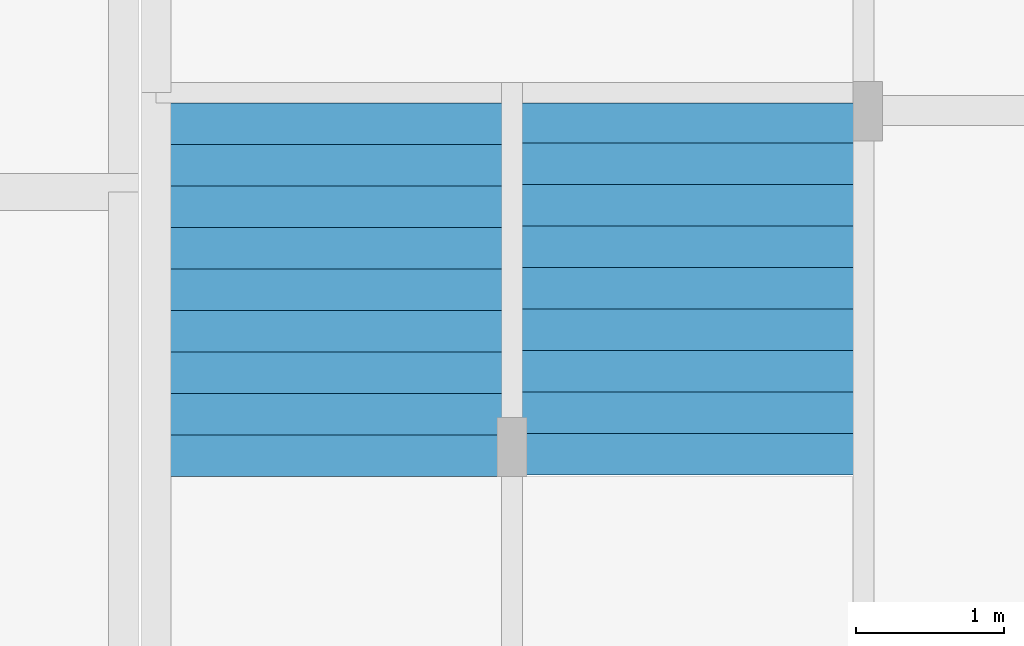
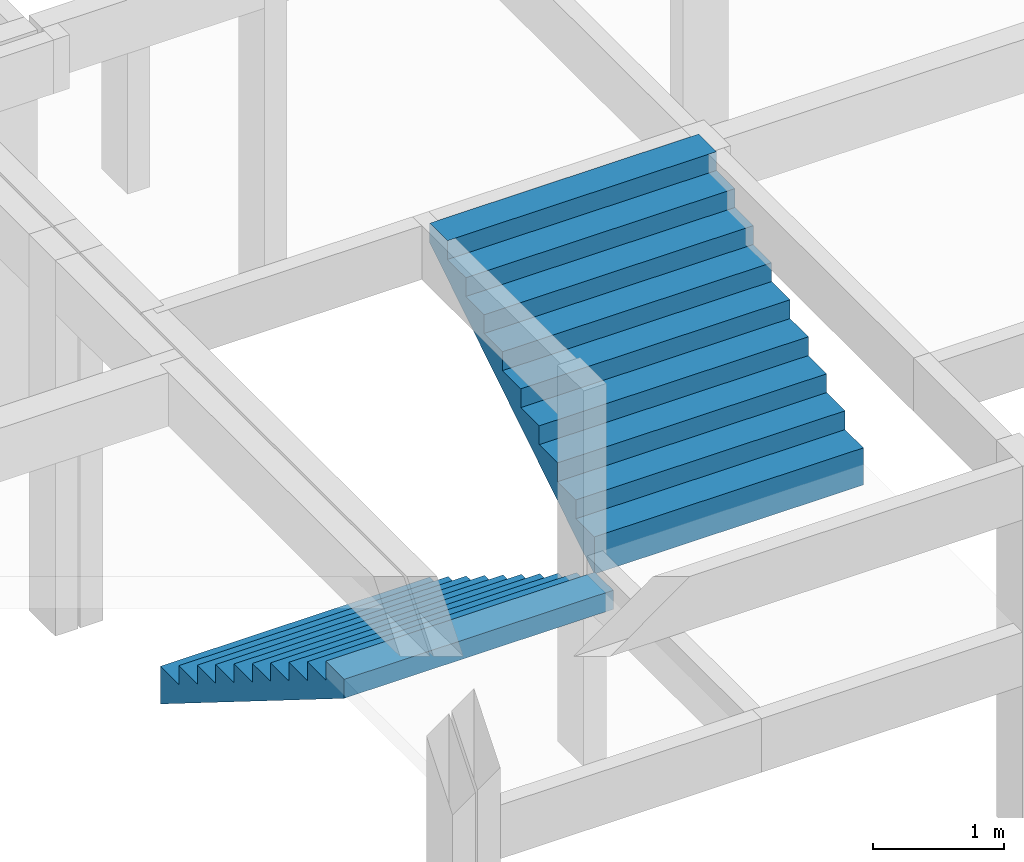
# One storey, part 4 of 4: 2 stair flights.
"""IFC4 building model written with IfcOpenShell, lengths in centimetres."""

from ifc_helpers import new_model, si_unit, derived_unit, frame, origin, origin_with_axes, place, context, project, spatial, faceted_brep, material, element, save


model = new_model("IFC4")

# Units and contexts
model_context = context("Model", 3, precision=1e-05, world=origin_with_axes(), identifier="Body")
ifc_project = project(units=[si_unit("LENGTHUNIT", "METRE", prefix="CENTI"), si_unit("VOLUMEUNIT", "CUBIC_METRE"), si_unit("AREAUNIT", "SQUARE_METRE"), si_unit("POWERUNIT", "WATT"), si_unit("LUMINOUSFLUXUNIT", "LUMEN"), si_unit("ELECTRICCURRENTUNIT", "AMPERE"), si_unit("PRESSUREUNIT", "PASCAL", prefix="KILO"), si_unit("MASSUNIT", "GRAM", prefix="KILO"), si_unit("PLANEANGLEUNIT", "RADIAN"), derived_unit("VOLUMETRICFLOWRATEUNIT", [(si_unit("LENGTHUNIT", "METRE"), 3), (si_unit("TIMEUNIT", "SECOND"), -1)])], contexts=[model_context])

# Site, building, storey
site_placement = place(None, origin_with_axes())
site = spatial("IfcSite", under=ifc_project, at=site_placement)
building_placement = place(site_placement, origin())
building = spatial("IfcBuilding", under=site, at=building_placement)
placement_1 = place(building_placement, origin_with_axes())
placement_2 = place(placement_1, frame((0.0, 0.0, 550.0), z_axis=(0.0, 0.0, 1.0), x_axis=(1.0, 0.0, 0.0)))
placement_3 = place(placement_2, frame((0.0, 0.0, 350.0), z_axis=(0.0, 0.0, 1.0), x_axis=(1.0, 0.0, 0.0)))
storey_placement = place(placement_3, frame((0.0, 0.0, 350.0), z_axis=(0.0, 0.0, 1.0), x_axis=(1.0, 0.0, 0.0)))
storey = spatial("IfcBuildingStorey", under=building, at=storey_placement, Name="2º PAV.", CompositionType="ELEMENT", Elevation=1250.0)

# Stair flights
ifc_material = material(Name="Concreto")
stair_flight_1_placement = place(storey_placement, frame((2785.1, -978.1, -172.0), z_axis=(0.0, 0.0, 1.0), x_axis=(1.0, 0.0, 0.0)))
element("IfcStairFlight", 1, at=stair_flight_1_placement, inside=storey, material=ifc_material, Name="LE1", NumberOfRisers=0, NumberOfTreads=0, context=model_context, shape_type="Brep", body=[
    faceted_brep([(118.5, -140.0, 0.0), (118.5, -112.0, 0.0), (-118.5, -112.0, 0.0), (-118.5, -140.0, 0.0), (118.5, -112.0, -35.188714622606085), (118.5, -140.0, -17.688714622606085), (-118.5, -140.0, -17.688714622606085), (-118.5, -112.0, -35.188714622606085), (118.5, -140.0, -17.688714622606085), (118.5, -140.0, 0.0), (-118.5, -140.0, 0.0), (-118.5, -140.0, -17.688714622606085), (118.5, -112.0, 0.0), (118.5, -112.0, -35.188714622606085), (-118.5, -112.0, -35.188714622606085), (-118.5, -112.0, 0.0), (-118.5, -112.0, -35.188714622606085), (-118.5, -140.0, -17.688714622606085), (-118.5, -140.0, 0.0), (-118.5, -112.0, 0.0), (118.5, -112.0, -35.188714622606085), (118.5, -112.0, 0.0), (118.5, -140.0, 0.0), (118.5, -140.0, -17.688714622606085), (118.5, -112.0, -17.5), (118.5, -84.0, -17.5), (-118.5, -84.0, -17.5), (-118.5, -112.0, -17.5), (118.5, -84.0, -52.688714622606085), (118.5, -112.0, -35.188714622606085), (-118.5, -112.0, -35.188714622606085), (-118.5, -84.0, -52.688714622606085), (118.5, -112.0, -35.188714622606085), (118.5, -112.0, -17.5), (-118.5, -112.0, -17.5), (-118.5, -112.0, -35.188714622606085), (118.5, -84.0, -17.5), (118.5, -84.0, -52.688714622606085), (-118.5, -84.0, -52.688714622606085), (-118.5, -84.0, -17.5), (-118.5, -84.0, -52.688714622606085), (-118.5, -112.0, -35.188714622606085), (-118.5, -112.0, -17.5), (-118.5, -84.0, -17.5), (118.5, -84.0, -52.688714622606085), (118.5, -84.0, -17.5), (118.5, -112.0, -17.5), (118.5, -112.0, -35.188714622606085), (118.5, -84.0, -35.0), (118.5, -56.0, -35.0), (-118.5, -56.0, -35.0), (-118.5, -84.0, -35.0), (118.5, -56.0, -70.18871462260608), (118.5, -84.0, -52.688714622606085), (-118.5, -84.0, -52.688714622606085), (-118.5, -56.0, -70.18871462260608), (118.5, -84.0, -52.688714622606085), (118.5, -84.0, -35.0), (-118.5, -84.0, -35.0), (-118.5, -84.0, -52.688714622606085), (118.5, -56.0, -35.0), (118.5, -56.0, -70.18871462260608), (-118.5, -56.0, -70.18871462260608), (-118.5, -56.0, -35.0), (-118.5, -56.0, -70.18871462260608), (-118.5, -84.0, -52.688714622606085), (-118.5, -84.0, -35.0), (-118.5, -56.0, -35.0), (118.5, -56.0, -70.18871462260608), (118.5, -56.0, -35.0), (118.5, -84.0, -35.0), (118.5, -84.0, -52.688714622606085), (118.5, -56.0, -52.5), (118.5, -28.0, -52.5), (-118.5, -28.0, -52.5), (-118.5, -56.0, -52.5), (118.5, -28.0, -87.68871462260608), (118.5, -56.0, -70.18871462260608), (-118.5, -56.0, -70.18871462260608), (-118.5, -28.0, -87.68871462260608), (118.5, -56.0, -70.18871462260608), (118.5, -56.0, -52.5), (-118.5, -56.0, -52.5), (-118.5, -56.0, -70.18871462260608), (118.5, -28.0, -52.5), (118.5, -28.0, -87.68871462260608), (-118.5, -28.0, -87.68871462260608), (-118.5, -28.0, -52.5), (-118.5, -28.0, -87.68871462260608), (-118.5, -56.0, -70.18871462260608), (-118.5, -56.0, -52.5), (-118.5, -28.0, -52.5), (118.5, -28.0, -87.68871462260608), (118.5, -28.0, -52.5), (118.5, -56.0, -52.5), (118.5, -56.0, -70.18871462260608), (118.5, -28.0, -70.0), (118.5, 0.0, -70.0), (-118.5, 0.0, -70.0), (-118.5, -28.0, -70.0), (118.5, 0.0, -105.18871462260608), (118.5, -28.0, -87.68871462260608), (-118.5, -28.0, -87.68871462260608), (-118.5, 0.0, -105.18871462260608), (118.5, -28.0, -87.68871462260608), (118.5, -28.0, -70.0), (-118.5, -28.0, -70.0), (-118.5, -28.0, -87.68871462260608), (118.5, 0.0, -70.0), (118.5, 0.0, -105.18871462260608), (-118.5, 0.0, -105.18871462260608), (-118.5, 0.0, -70.0), (-118.5, 0.0, -105.18871462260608), (-118.5, -28.0, -87.68871462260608), (-118.5, -28.0, -70.0), (-118.5, 0.0, -70.0), (118.5, 0.0, -105.18871462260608), (118.5, 0.0, -70.0), (118.5, -28.0, -70.0), (118.5, -28.0, -87.68871462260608), (118.5, 0.0, -87.5), (118.5, 28.0, -87.5), (-118.5, 28.0, -87.5), (-118.5, 0.0, -87.5), (118.5, 28.0, -122.68871462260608), (118.5, 0.0, -105.18871462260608), (-118.5, 0.0, -105.18871462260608), (-118.5, 28.0, -122.68871462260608), (118.5, 0.0, -105.18871462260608), (118.5, 0.0, -87.5), (-118.5, 0.0, -87.5), (-118.5, 0.0, -105.18871462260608), (118.5, 28.0, -87.5), (118.5, 28.0, -122.68871462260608), (-118.5, 28.0, -122.68871462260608), (-118.5, 28.0, -87.5), (-118.5, 28.0, -122.68871462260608), (-118.5, 0.0, -105.18871462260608), (-118.5, 0.0, -87.5), (-118.5, 28.0, -87.5), (118.5, 28.0, -122.68871462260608), (118.5, 28.0, -87.5), (118.5, 0.0, -87.5), (118.5, 0.0, -105.18871462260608), (118.5, 28.0, -105.0), (118.5, 56.0, -105.0), (-118.5, 56.0, -105.0), (-118.5, 28.0, -105.0), (118.5, 56.0, -140.18871462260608), (118.5, 28.0, -122.68871462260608), (-118.5, 28.0, -122.68871462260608), (-118.5, 56.0, -140.18871462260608), (118.5, 28.0, -122.68871462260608), (118.5, 28.0, -105.0), (-118.5, 28.0, -105.0), (-118.5, 28.0, -122.68871462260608), (118.5, 56.0, -105.0), (118.5, 56.0, -140.18871462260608), (-118.5, 56.0, -140.18871462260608), (-118.5, 56.0, -105.0), (-118.5, 56.0, -140.18871462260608), (-118.5, 28.0, -122.68871462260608), (-118.5, 28.0, -105.0), (-118.5, 56.0, -105.0), (118.5, 56.0, -140.18871462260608), (118.5, 56.0, -105.0), (118.5, 28.0, -105.0), (118.5, 28.0, -122.68871462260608), (118.5, 56.0, -122.5), (118.5, 84.0, -122.5), (-118.5, 84.0, -122.5), (-118.5, 56.0, -122.5), (118.5, 84.0, -157.68871462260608), (118.5, 56.0, -140.18871462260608), (-118.5, 56.0, -140.18871462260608), (-118.5, 84.0, -157.68871462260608), (118.5, 56.0, -140.18871462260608), (118.5, 56.0, -122.5), (-118.5, 56.0, -122.5), (-118.5, 56.0, -140.18871462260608), (118.5, 84.0, -122.5), (118.5, 84.0, -157.68871462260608), (-118.5, 84.0, -157.68871462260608), (-118.5, 84.0, -122.5), (-118.5, 84.0, -157.68871462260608), (-118.5, 56.0, -140.18871462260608), (-118.5, 56.0, -122.5), (-118.5, 84.0, -122.5), (118.5, 84.0, -157.68871462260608), (118.5, 84.0, -122.5), (118.5, 56.0, -122.5), (118.5, 56.0, -140.18871462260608), (118.5, 84.0, -140.0), (118.5, 112.0, -140.0), (-118.5, 112.0, -140.0), (-118.5, 84.0, -140.0), (118.5, 112.0, -175.18871462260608), (118.5, 84.0, -157.68871462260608), (-118.5, 84.0, -157.68871462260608), (-118.5, 112.0, -175.18871462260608), (118.5, 84.0, -157.68871462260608), (118.5, 84.0, -140.0), (-118.5, 84.0, -140.0), (-118.5, 84.0, -157.68871462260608), (118.5, 112.0, -140.0), (118.5, 112.0, -175.18871462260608), (-118.5, 112.0, -175.18871462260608), (-118.5, 112.0, -140.0), (-118.5, 112.0, -175.18871462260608), (-118.5, 84.0, -157.68871462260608), (-118.5, 84.0, -140.0), (-118.5, 112.0, -140.0), (118.5, 112.0, -175.18871462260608), (118.5, 112.0, -140.0), (118.5, 84.0, -140.0), (118.5, 84.0, -157.68871462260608), (118.5, 112.0, -157.5), (118.5, 140.0, -157.5), (-118.5, 140.0, -157.5), (-118.5, 112.0, -157.5), (118.5, 140.0, -192.68871462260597), (118.5, 112.0, -175.18871462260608), (-118.5, 112.0, -175.18871462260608), (-118.5, 140.0, -192.68871462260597), (118.5, 112.0, -175.18871462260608), (118.5, 112.0, -157.5), (-118.5, 112.0, -157.5), (-118.5, 112.0, -175.18871462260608), (118.5, 140.0, -157.5), (118.5, 140.0, -192.68871462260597), (-118.5, 140.0, -192.68871462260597), (-118.5, 140.0, -157.5), (-118.5, 140.0, -192.68871462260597), (-118.5, 112.0, -175.18871462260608), (-118.5, 112.0, -157.5), (-118.5, 140.0, -157.5), (118.5, 140.0, -192.68871462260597), (118.5, 140.0, -157.5), (118.5, 112.0, -157.5), (118.5, 112.0, -175.18871462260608)], [[[0, 1, 2, 3]], [[4, 5, 6, 7]], [[8, 9, 10, 11]], [[12, 13, 14, 15]], [[16, 17, 18, 19]], [[20, 21, 22, 23]], [[24, 25, 26, 27]], [[28, 29, 30, 31]], [[32, 33, 34, 35]], [[36, 37, 38, 39]], [[40, 41, 42, 43]], [[44, 45, 46, 47]], [[48, 49, 50, 51]], [[52, 53, 54, 55]], [[56, 57, 58, 59]], [[60, 61, 62, 63]], [[64, 65, 66, 67]], [[68, 69, 70, 71]], [[72, 73, 74, 75]], [[76, 77, 78, 79]], [[80, 81, 82, 83]], [[84, 85, 86, 87]], [[88, 89, 90, 91]], [[92, 93, 94, 95]], [[96, 97, 98, 99]], [[100, 101, 102, 103]], [[104, 105, 106, 107]], [[108, 109, 110, 111]], [[112, 113, 114, 115]], [[116, 117, 118, 119]], [[120, 121, 122, 123]], [[124, 125, 126, 127]], [[128, 129, 130, 131]], [[132, 133, 134, 135]], [[136, 137, 138, 139]], [[140, 141, 142, 143]], [[144, 145, 146, 147]], [[148, 149, 150, 151]], [[152, 153, 154, 155]], [[156, 157, 158, 159]], [[160, 161, 162, 163]], [[164, 165, 166, 167]], [[168, 169, 170, 171]], [[172, 173, 174, 175]], [[176, 177, 178, 179]], [[180, 181, 182, 183]], [[184, 185, 186, 187]], [[188, 189, 190, 191]], [[192, 193, 194, 195]], [[196, 197, 198, 199]], [[200, 201, 202, 203]], [[204, 205, 206, 207]], [[208, 209, 210, 211]], [[212, 213, 214, 215]], [[216, 217, 218, 219]], [[220, 221, 222, 223]], [[224, 225, 226, 227]], [[228, 229, 230, 231]], [[232, 233, 234, 235]], [[236, 237, 238, 239]]]),
])
stair_flight_2_placement = place(storey_placement, frame((3022.1, -963.6, 0.0), z_axis=(0.0, 0.0, 1.0), x_axis=(1.0, 0.0, 0.0)))
element("IfcStairFlight", 2, at=stair_flight_2_placement, inside=storey, material=ifc_material, Name="LE4", NumberOfRisers=0, NumberOfTreads=0, context=model_context, shape_type="Brep", body=[
    faceted_brep([(-118.5, 125.5, 0.0), (-118.5, 98.5, 0.0), (118.5, 98.5, 0.0), (118.5, 125.5, 0.0), (-118.5, 98.5, -35.188714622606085), (-118.5, 125.5, -18.313714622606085), (118.5, 125.5, -18.313714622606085), (118.5, 98.5, -35.188714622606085), (-118.5, 125.5, -18.313714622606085), (-118.5, 125.5, 0.0), (118.5, 125.5, 0.0), (118.5, 125.5, -18.313714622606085), (-118.5, 98.5, 0.0), (-118.5, 98.5, -35.188714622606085), (118.5, 98.5, -35.188714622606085), (118.5, 98.5, 0.0), (118.5, 98.5, -35.188714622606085), (118.5, 125.5, -18.313714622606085), (118.5, 125.5, 0.0), (118.5, 98.5, 0.0), (-118.5, 98.5, -35.188714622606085), (-118.5, 98.5, 0.0), (-118.5, 125.5, 0.0), (-118.5, 125.5, -18.313714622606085), (-118.5, 98.5, -17.5), (-118.5, 70.5, -17.5), (118.5, 70.5, -17.5), (118.5, 98.5, -17.5), (-118.5, 70.5, -52.688714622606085), (-118.5, 98.5, -35.188714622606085), (118.5, 98.5, -35.188714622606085), (118.5, 70.5, -52.688714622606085), (-118.5, 98.5, -35.188714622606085), (-118.5, 98.5, -17.5), (118.5, 98.5, -17.5), (118.5, 98.5, -35.188714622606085), (-118.5, 70.5, -17.5), (-118.5, 70.5, -52.688714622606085), (118.5, 70.5, -52.688714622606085), (118.5, 70.5, -17.5), (118.5, 70.5, -52.688714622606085), (118.5, 98.5, -35.188714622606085), (118.5, 98.5, -17.5), (118.5, 70.5, -17.5), (-118.5, 70.5, -52.688714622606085), (-118.5, 70.5, -17.5), (-118.5, 98.5, -17.5), (-118.5, 98.5, -35.188714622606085), (-118.5, 70.5, -35.0), (-118.5, 42.5, -35.0), (118.5, 42.5, -35.0), (118.5, 70.5, -35.0), (-118.5, 42.5, -70.18871462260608), (-118.5, 70.5, -52.688714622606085), (118.5, 70.5, -52.688714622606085), (118.5, 42.5, -70.18871462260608), (-118.5, 70.5, -52.688714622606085), (-118.5, 70.5, -35.0), (118.5, 70.5, -35.0), (118.5, 70.5, -52.688714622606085), (-118.5, 42.5, -35.0), (-118.5, 42.5, -70.18871462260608), (118.5, 42.5, -70.18871462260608), (118.5, 42.5, -35.0), (118.5, 42.5, -70.18871462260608), (118.5, 70.5, -52.688714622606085), (118.5, 70.5, -35.0), (118.5, 42.5, -35.0), (-118.5, 42.5, -70.18871462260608), (-118.5, 42.5, -35.0), (-118.5, 70.5, -35.0), (-118.5, 70.5, -52.688714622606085), (-118.5, 42.5, -52.5), (-118.5, 14.5, -52.5), (118.5, 14.5, -52.5), (118.5, 42.5, -52.5), (-118.5, 14.5, -87.68871462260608), (-118.5, 42.5, -70.18871462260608), (118.5, 42.5, -70.18871462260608), (118.5, 14.5, -87.68871462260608), (-118.5, 42.5, -70.18871462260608), (-118.5, 42.5, -52.5), (118.5, 42.5, -52.5), (118.5, 42.5, -70.18871462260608), (-118.5, 14.5, -52.5), (-118.5, 14.5, -87.68871462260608), (118.5, 14.5, -87.68871462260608), (118.5, 14.5, -52.5), (118.5, 14.5, -87.68871462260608), (118.5, 42.5, -70.18871462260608), (118.5, 42.5, -52.5), (118.5, 14.5, -52.5), (-118.5, 14.5, -87.68871462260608), (-118.5, 14.5, -52.5), (-118.5, 42.5, -52.5), (-118.5, 42.5, -70.18871462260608), (-118.5, 14.5, -70.0), (-118.5, -13.5, -70.0), (118.5, -13.5, -70.0), (118.5, 14.5, -70.0), (-118.5, -13.5, -105.18871462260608), (-118.5, 14.5, -87.68871462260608), (118.5, 14.5, -87.68871462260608), (118.5, -13.5, -105.18871462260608), (-118.5, 14.5, -87.68871462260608), (-118.5, 14.5, -70.0), (118.5, 14.5, -70.0), (118.5, 14.5, -87.68871462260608), (-118.5, -13.5, -70.0), (-118.5, -13.5, -105.18871462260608), (118.5, -13.5, -105.18871462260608), (118.5, -13.5, -70.0), (118.5, -13.5, -105.18871462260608), (118.5, 14.5, -87.68871462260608), (118.5, 14.5, -70.0), (118.5, -13.5, -70.0), (-118.5, -13.5, -105.18871462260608), (-118.5, -13.5, -70.0), (-118.5, 14.5, -70.0), (-118.5, 14.5, -87.68871462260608), (-118.5, -13.5, -87.5), (-118.5, -41.5, -87.5), (118.5, -41.5, -87.5), (118.5, -13.5, -87.5), (-118.5, -41.5, -122.68871462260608), (-118.5, -13.5, -105.18871462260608), (118.5, -13.5, -105.18871462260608), (118.5, -41.5, -122.68871462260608), (-118.5, -13.5, -105.18871462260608), (-118.5, -13.5, -87.5), (118.5, -13.5, -87.5), (118.5, -13.5, -105.18871462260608), (-118.5, -41.5, -87.5), (-118.5, -41.5, -122.68871462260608), (118.5, -41.5, -122.68871462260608), (118.5, -41.5, -87.5), (118.5, -41.5, -122.68871462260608), (118.5, -13.5, -105.18871462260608), (118.5, -13.5, -87.5), (118.5, -41.5, -87.5), (-118.5, -41.5, -122.68871462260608), (-118.5, -41.5, -87.5), (-118.5, -13.5, -87.5), (-118.5, -13.5, -105.18871462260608), (-118.5, -41.5, -105.0), (-118.5, -69.5, -105.0), (118.5, -69.5, -105.0), (118.5, -41.5, -105.0), (-118.5, -69.5, -140.18871462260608), (-118.5, -41.5, -122.68871462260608), (118.5, -41.5, -122.68871462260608), (118.5, -69.5, -140.18871462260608), (-118.5, -41.5, -122.68871462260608), (-118.5, -41.5, -105.0), (118.5, -41.5, -105.0), (118.5, -41.5, -122.68871462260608), (-118.5, -69.5, -105.0), (-118.5, -69.5, -140.18871462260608), (118.5, -69.5, -140.18871462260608), (118.5, -69.5, -105.0), (118.5, -69.5, -140.18871462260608), (118.5, -41.5, -122.68871462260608), (118.5, -41.5, -105.0), (118.5, -69.5, -105.0), (-118.5, -69.5, -140.18871462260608), (-118.5, -69.5, -105.0), (-118.5, -41.5, -105.0), (-118.5, -41.5, -122.68871462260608), (-118.5, -69.5, -122.5), (-118.5, -97.5, -122.5), (118.5, -97.5, -122.5), (118.5, -69.5, -122.5), (-118.5, -97.5, -157.68871462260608), (-118.5, -69.5, -140.18871462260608), (118.5, -69.5, -140.18871462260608), (118.5, -97.5, -157.68871462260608), (-118.5, -69.5, -140.18871462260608), (-118.5, -69.5, -122.5), (118.5, -69.5, -122.5), (118.5, -69.5, -140.18871462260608), (-118.5, -97.5, -122.5), (-118.5, -97.5, -157.68871462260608), (118.5, -97.5, -157.68871462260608), (118.5, -97.5, -122.5), (118.5, -97.5, -157.68871462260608), (118.5, -69.5, -140.18871462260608), (118.5, -69.5, -122.5), (118.5, -97.5, -122.5), (-118.5, -97.5, -157.68871462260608), (-118.5, -97.5, -122.5), (-118.5, -69.5, -122.5), (-118.5, -69.5, -140.18871462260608), (-118.5, -97.5, -140.0), (-118.5, -125.5, -140.0), (118.5, -125.5, -140.0), (118.5, -97.5, -140.0), (-118.5, -125.5, -174.56371462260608), (-118.5, -97.5, -157.68871462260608), (118.5, -97.5, -157.68871462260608), (118.5, -125.5, -174.56371462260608), (-118.5, -97.5, -157.68871462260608), (-118.5, -97.5, -140.0), (118.5, -97.5, -140.0), (118.5, -97.5, -157.68871462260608), (-118.5, -125.5, -140.0), (-118.5, -125.5, -174.56371462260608), (118.5, -125.5, -174.56371462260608), (118.5, -125.5, -140.0), (118.5, -125.5, -174.56371462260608), (118.5, -97.5, -157.68871462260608), (118.5, -97.5, -140.0), (118.5, -125.5, -140.0), (-118.5, -125.5, -174.56371462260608), (-118.5, -125.5, -140.0), (-118.5, -97.5, -140.0), (-118.5, -97.5, -157.68871462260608)], [[[0, 1, 2, 3]], [[4, 5, 6, 7]], [[8, 9, 10, 11]], [[12, 13, 14, 15]], [[16, 17, 18, 19]], [[20, 21, 22, 23]], [[24, 25, 26, 27]], [[28, 29, 30, 31]], [[32, 33, 34, 35]], [[36, 37, 38, 39]], [[40, 41, 42, 43]], [[44, 45, 46, 47]], [[48, 49, 50, 51]], [[52, 53, 54, 55]], [[56, 57, 58, 59]], [[60, 61, 62, 63]], [[64, 65, 66, 67]], [[68, 69, 70, 71]], [[72, 73, 74, 75]], [[76, 77, 78, 79]], [[80, 81, 82, 83]], [[84, 85, 86, 87]], [[88, 89, 90, 91]], [[92, 93, 94, 95]], [[96, 97, 98, 99]], [[100, 101, 102, 103]], [[104, 105, 106, 107]], [[108, 109, 110, 111]], [[112, 113, 114, 115]], [[116, 117, 118, 119]], [[120, 121, 122, 123]], [[124, 125, 126, 127]], [[128, 129, 130, 131]], [[132, 133, 134, 135]], [[136, 137, 138, 139]], [[140, 141, 142, 143]], [[144, 145, 146, 147]], [[148, 149, 150, 151]], [[152, 153, 154, 155]], [[156, 157, 158, 159]], [[160, 161, 162, 163]], [[164, 165, 166, 167]], [[168, 169, 170, 171]], [[172, 173, 174, 175]], [[176, 177, 178, 179]], [[180, 181, 182, 183]], [[184, 185, 186, 187]], [[188, 189, 190, 191]], [[192, 193, 194, 195]], [[196, 197, 198, 199]], [[200, 201, 202, 203]], [[204, 205, 206, 207]], [[208, 209, 210, 211]], [[212, 213, 214, 215]]]),
])

save(model, "model.ifc")
